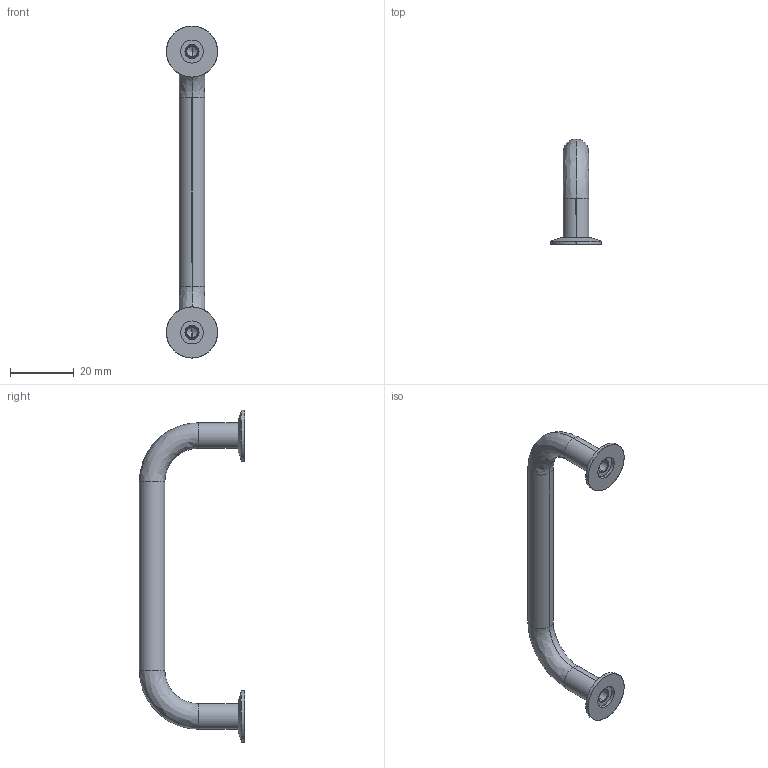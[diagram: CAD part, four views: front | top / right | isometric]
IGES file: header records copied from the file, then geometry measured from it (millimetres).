
Start section: SolidWorks IGES file using analytic representation for surfaces
Global section: file name: C:\Documents and Settings\IANO\Desktop\Temp File\Process pending\PCN pending\78700_v2\78700_v2_20170116_IGES\78700.W0108.igs; native system: SolidWorks 2009; preprocessor: SolidWorks 2009; author: IANO; date: 170310.095645; units: millimetre
Bounding box: 16 x 33 x 104 mm (x, y, z)
Surface area: 4444.9 mm2 (no closed solid volume)
Topology: 0 solids, 0 shells, 52 faces, 808 edges, 804 vertices
Faces by surface type: revolution 38, bspline 14
